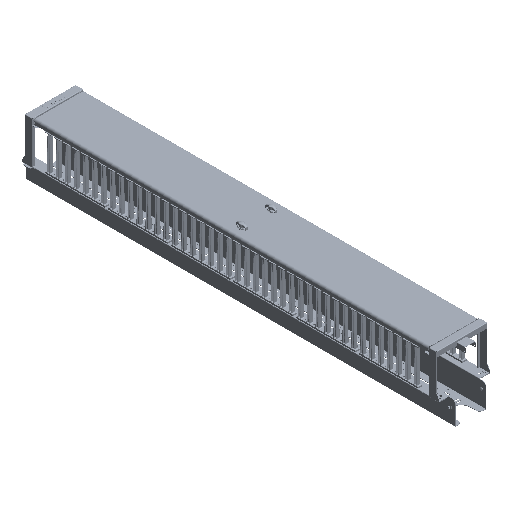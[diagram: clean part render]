
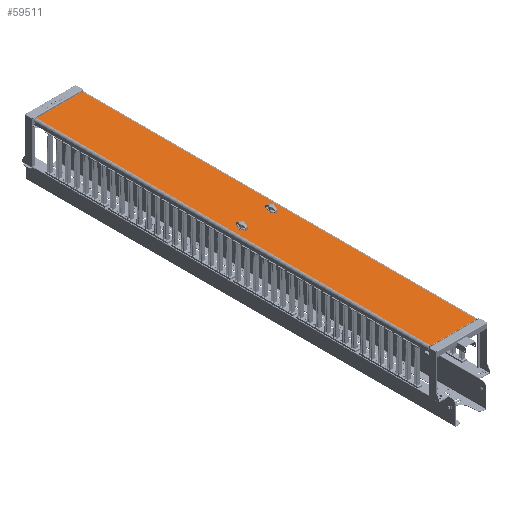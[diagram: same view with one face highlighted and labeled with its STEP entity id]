
A CAD part, isometric view. The second image highlights one B-rep face of the part: STEP entity #59511.
In plain terms, the highlighted planar face has unit normal (0, 0, 1) as drawn and (0, 0, -1) by its records, which use the part's own axes.
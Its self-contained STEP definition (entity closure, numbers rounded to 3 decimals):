
#3287=FACE_BOUND('',#9941,.T.);
#3288=FACE_BOUND('',#9942,.T.);
#3998=PLANE('',#64882);
#6000=FACE_OUTER_BOUND('',#9940,.T.);
#9940=EDGE_LOOP('',(#45891,#45892,#45893,#45894,#45895,#45896,#45897,#45898));
#9941=EDGE_LOOP('',(#45899,#45900,#45901,#45902,#45903,#45904,#45905,#45906));
#9942=EDGE_LOOP('',(#45907,#45908,#45909,#45910,#45911,#45912,#45913,#45914));
#14371=LINE('',#91502,#19330);
#14375=LINE('',#91514,#19334);
#14379=LINE('',#91526,#19338);
#14383=LINE('',#91537,#19342);
#14387=LINE('',#91550,#19346);
#14391=LINE('',#91562,#19350);
#14395=LINE('',#91574,#19354);
#14399=LINE('',#91585,#19358);
#14476=LINE('',#91785,#19435);
#14487=LINE('',#91889,#19446);
#14490=LINE('',#91898,#19449);
#14494=LINE('',#91912,#19453);
#14495=LINE('',#91915,#19454);
#14496=LINE('',#91916,#19455);
#14497=LINE('',#91918,#19456);
#14498=LINE('',#91919,#19457);
#19330=VECTOR('',#74794,0.394);
#19334=VECTOR('',#74806,0.394);
#19338=VECTOR('',#74818,0.394);
#19342=VECTOR('',#74830,0.394);
#19346=VECTOR('',#74842,0.394);
#19350=VECTOR('',#74854,0.394);
#19354=VECTOR('',#74866,0.394);
#19358=VECTOR('',#74878,0.394);
#19435=VECTOR('',#75085,0.394);
#19446=VECTOR('',#75122,0.394);
#19449=VECTOR('',#75133,0.394);
#19453=VECTOR('',#75151,0.394);
#19454=VECTOR('',#75154,0.394);
#19455=VECTOR('',#75155,0.394);
#19456=VECTOR('',#75156,0.394);
#19457=VECTOR('',#75157,0.394);
#23408=CIRCLE('',#64762,0.443);
#23410=CIRCLE('',#64766,0.443);
#23412=CIRCLE('',#64770,0.443);
#23414=CIRCLE('',#64774,0.443);
#23416=CIRCLE('',#64778,0.443);
#23418=CIRCLE('',#64782,0.443);
#23420=CIRCLE('',#64786,0.443);
#23422=CIRCLE('',#64790,0.443);
#27112=VERTEX_POINT('',#91492);
#27113=VERTEX_POINT('',#91493);
#27116=VERTEX_POINT('',#91501);
#27118=VERTEX_POINT('',#91507);
#27120=VERTEX_POINT('',#91513);
#27122=VERTEX_POINT('',#91519);
#27124=VERTEX_POINT('',#91525);
#27126=VERTEX_POINT('',#91531);
#27128=VERTEX_POINT('',#91540);
#27129=VERTEX_POINT('',#91541);
#27132=VERTEX_POINT('',#91549);
#27134=VERTEX_POINT('',#91555);
#27136=VERTEX_POINT('',#91561);
#27138=VERTEX_POINT('',#91567);
#27140=VERTEX_POINT('',#91573);
#27142=VERTEX_POINT('',#91579);
#27172=VERTEX_POINT('',#91782);
#27173=VERTEX_POINT('',#91784);
#27184=VERTEX_POINT('',#91880);
#27185=VERTEX_POINT('',#91888);
#27187=VERTEX_POINT('',#91897);
#27189=VERTEX_POINT('',#91903);
#27191=VERTEX_POINT('',#91914);
#27192=VERTEX_POINT('',#91917);
#33647=EDGE_CURVE('',#27112,#27113,#23408,.T.);
#33651=EDGE_CURVE('',#27113,#27116,#14371,.T.);
#33654=EDGE_CURVE('',#27116,#27118,#23410,.T.);
#33657=EDGE_CURVE('',#27118,#27120,#14375,.T.);
#33660=EDGE_CURVE('',#27120,#27122,#23412,.T.);
#33663=EDGE_CURVE('',#27122,#27124,#14379,.T.);
#33666=EDGE_CURVE('',#27124,#27126,#23414,.T.);
#33669=EDGE_CURVE('',#27126,#27112,#14383,.T.);
#33671=EDGE_CURVE('',#27128,#27129,#23416,.T.);
#33675=EDGE_CURVE('',#27129,#27132,#14387,.T.);
#33678=EDGE_CURVE('',#27132,#27134,#23418,.T.);
#33681=EDGE_CURVE('',#27134,#27136,#14391,.T.);
#33684=EDGE_CURVE('',#27136,#27138,#23420,.T.);
#33687=EDGE_CURVE('',#27138,#27140,#14395,.T.);
#33690=EDGE_CURVE('',#27140,#27142,#23422,.T.);
#33693=EDGE_CURVE('',#27142,#27128,#14399,.T.);
#33782=EDGE_CURVE('',#27173,#27172,#14476,.T.);
#33804=EDGE_CURVE('',#27185,#27173,#14487,.T.);
#33809=EDGE_CURVE('',#27187,#27185,#14490,.T.);
#33817=EDGE_CURVE('',#27172,#27189,#14494,.T.);
#33818=EDGE_CURVE('',#27189,#27191,#14495,.T.);
#33819=EDGE_CURVE('',#27191,#27184,#14496,.T.);
#33820=EDGE_CURVE('',#27184,#27192,#14497,.T.);
#33821=EDGE_CURVE('',#27192,#27187,#14498,.T.);
#45891=ORIENTED_EDGE('',*,*,#33804,.T.);
#45892=ORIENTED_EDGE('',*,*,#33782,.T.);
#45893=ORIENTED_EDGE('',*,*,#33817,.T.);
#45894=ORIENTED_EDGE('',*,*,#33818,.T.);
#45895=ORIENTED_EDGE('',*,*,#33819,.T.);
#45896=ORIENTED_EDGE('',*,*,#33820,.T.);
#45897=ORIENTED_EDGE('',*,*,#33821,.T.);
#45898=ORIENTED_EDGE('',*,*,#33809,.T.);
#45899=ORIENTED_EDGE('',*,*,#33647,.T.);
#45900=ORIENTED_EDGE('',*,*,#33651,.T.);
#45901=ORIENTED_EDGE('',*,*,#33654,.T.);
#45902=ORIENTED_EDGE('',*,*,#33657,.T.);
#45903=ORIENTED_EDGE('',*,*,#33660,.T.);
#45904=ORIENTED_EDGE('',*,*,#33663,.T.);
#45905=ORIENTED_EDGE('',*,*,#33666,.T.);
#45906=ORIENTED_EDGE('',*,*,#33669,.T.);
#45907=ORIENTED_EDGE('',*,*,#33671,.T.);
#45908=ORIENTED_EDGE('',*,*,#33675,.T.);
#45909=ORIENTED_EDGE('',*,*,#33678,.T.);
#45910=ORIENTED_EDGE('',*,*,#33681,.T.);
#45911=ORIENTED_EDGE('',*,*,#33684,.T.);
#45912=ORIENTED_EDGE('',*,*,#33687,.T.);
#45913=ORIENTED_EDGE('',*,*,#33690,.T.);
#45914=ORIENTED_EDGE('',*,*,#33693,.T.);
#59511=ADVANCED_FACE('',(#6000,#3287,#3288),#3998,.F.);
#64762=AXIS2_PLACEMENT_3D('',#91494,#74786,#74787);
#64766=AXIS2_PLACEMENT_3D('',#91508,#74799,#74800);
#64770=AXIS2_PLACEMENT_3D('',#91520,#74811,#74812);
#64774=AXIS2_PLACEMENT_3D('',#91532,#74823,#74824);
#64778=AXIS2_PLACEMENT_3D('',#91542,#74834,#74835);
#64782=AXIS2_PLACEMENT_3D('',#91556,#74847,#74848);
#64786=AXIS2_PLACEMENT_3D('',#91568,#74859,#74860);
#64790=AXIS2_PLACEMENT_3D('',#91580,#74871,#74872);
#64882=AXIS2_PLACEMENT_3D('',#91913,#75152,#75153);
#74786=DIRECTION('center_axis',(0.,0.,1.));
#74787=DIRECTION('ref_axis',(-0.448,0.894,0.));
#74794=DIRECTION('',(0.,-1.,0.));
#74799=DIRECTION('center_axis',(0.,0.,1.));
#74800=DIRECTION('ref_axis',(-0.894,-0.448,0.));
#74806=DIRECTION('',(1.,0.,0.));
#74811=DIRECTION('center_axis',(0.,0.,1.));
#74812=DIRECTION('ref_axis',(0.448,-0.894,0.));
#74818=DIRECTION('',(0.,1.,0.));
#74823=DIRECTION('center_axis',(0.,0.,1.));
#74824=DIRECTION('ref_axis',(0.894,0.448,0.));
#74830=DIRECTION('',(-1.,0.,0.));
#74834=DIRECTION('center_axis',(0.,0.,1.));
#74835=DIRECTION('ref_axis',(-0.448,0.894,0.));
#74842=DIRECTION('',(0.,-1.,0.));
#74847=DIRECTION('center_axis',(0.,0.,1.));
#74848=DIRECTION('ref_axis',(-0.894,-0.448,0.));
#74854=DIRECTION('',(1.,0.,0.));
#74859=DIRECTION('center_axis',(0.,0.,1.));
#74860=DIRECTION('ref_axis',(0.448,-0.894,0.));
#74866=DIRECTION('',(0.,1.,0.));
#74871=DIRECTION('center_axis',(0.,0.,1.));
#74872=DIRECTION('ref_axis',(0.894,0.448,0.));
#74878=DIRECTION('',(-1.,0.,0.));
#75085=DIRECTION('',(0.,1.,0.));
#75122=DIRECTION('',(0.,1.,0.));
#75133=DIRECTION('',(-1.,0.,0.));
#75151=DIRECTION('',(0.,1.,0.));
#75152=DIRECTION('center_axis',(0.,0.,1.));
#75153=DIRECTION('ref_axis',(1.,0.,0.));
#75154=DIRECTION('',(1.,0.,0.));
#75155=DIRECTION('',(0.,-1.,0.));
#75156=DIRECTION('',(0.,-1.,0.));
#75157=DIRECTION('',(0.,-1.,0.));
#91492=CARTESIAN_POINT('',(2.702,0.396,0.));
#91493=CARTESIAN_POINT('',(2.505,0.199,0.));
#91494=CARTESIAN_POINT('Origin',(2.901,0.,0.));
#91501=CARTESIAN_POINT('',(2.505,-0.199,0.));
#91502=CARTESIAN_POINT('',(2.505,0.099,0.));
#91507=CARTESIAN_POINT('',(2.702,-0.396,0.));
#91508=CARTESIAN_POINT('Origin',(2.901,0.,0.));
#91513=CARTESIAN_POINT('',(3.1,-0.396,0.));
#91514=CARTESIAN_POINT('',(1.351,-0.396,0.));
#91519=CARTESIAN_POINT('',(3.297,-0.199,0.));
#91520=CARTESIAN_POINT('Origin',(2.901,0.,0.));
#91525=CARTESIAN_POINT('',(3.297,0.199,0.));
#91526=CARTESIAN_POINT('',(3.297,-0.099,0.));
#91531=CARTESIAN_POINT('',(3.1,0.396,0.));
#91532=CARTESIAN_POINT('Origin',(2.901,0.,0.));
#91537=CARTESIAN_POINT('',(1.55,0.396,0.));
#91540=CARTESIAN_POINT('',(-3.1,0.396,0.));
#91541=CARTESIAN_POINT('',(-3.297,0.199,0.));
#91542=CARTESIAN_POINT('Origin',(-2.901,0.,0.));
#91549=CARTESIAN_POINT('',(-3.297,-0.199,0.));
#91550=CARTESIAN_POINT('',(-3.297,0.099,0.));
#91555=CARTESIAN_POINT('',(-3.1,-0.396,0.));
#91556=CARTESIAN_POINT('Origin',(-2.901,0.,0.));
#91561=CARTESIAN_POINT('',(-2.702,-0.396,0.));
#91562=CARTESIAN_POINT('',(-1.55,-0.396,0.));
#91567=CARTESIAN_POINT('',(-2.505,-0.199,0.));
#91568=CARTESIAN_POINT('Origin',(-2.901,0.,0.));
#91573=CARTESIAN_POINT('',(-2.505,0.199,0.));
#91574=CARTESIAN_POINT('',(-2.505,-0.099,0.));
#91579=CARTESIAN_POINT('',(-2.702,0.396,0.));
#91580=CARTESIAN_POINT('Origin',(-2.901,0.,0.));
#91585=CARTESIAN_POINT('',(-1.351,0.396,0.));
#91782=CARTESIAN_POINT('',(-4.49,38.526,0.));
#91784=CARTESIAN_POINT('',(-4.49,-38.526,0.));
#91785=CARTESIAN_POINT('',(-4.49,-19.268,0.));
#91880=CARTESIAN_POINT('',(4.49,38.526,0.));
#91888=CARTESIAN_POINT('',(-4.49,-38.536,0.));
#91889=CARTESIAN_POINT('',(-4.49,-19.268,0.));
#91897=CARTESIAN_POINT('',(4.49,-38.536,0.));
#91898=CARTESIAN_POINT('',(2.45,-38.536,0.));
#91903=CARTESIAN_POINT('',(-4.49,38.536,0.));
#91912=CARTESIAN_POINT('',(-4.49,-19.268,0.));
#91913=CARTESIAN_POINT('Origin',(0.,0.,
0.));
#91914=CARTESIAN_POINT('',(4.49,38.536,0.));
#91915=CARTESIAN_POINT('',(-2.451,38.536,0.));
#91916=CARTESIAN_POINT('',(4.49,19.268,0.));
#91917=CARTESIAN_POINT('',(4.49,-38.526,0.));
#91918=CARTESIAN_POINT('',(4.49,19.268,0.));
#91919=CARTESIAN_POINT('',(4.49,19.268,0.));
